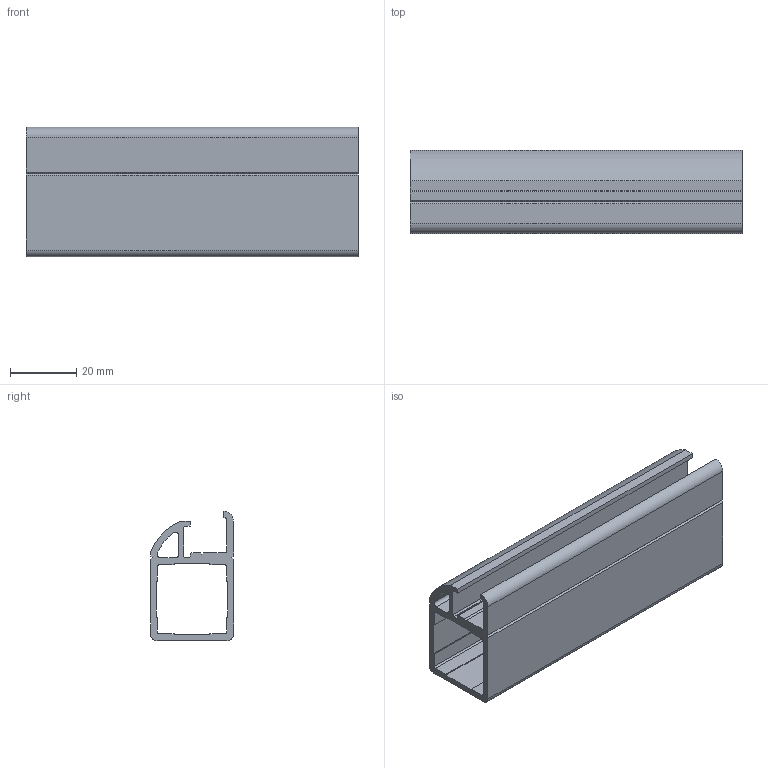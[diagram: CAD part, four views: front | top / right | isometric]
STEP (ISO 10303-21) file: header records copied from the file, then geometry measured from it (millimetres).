
FILE_DESCRIPTION (( 'STEP AP203' ), '1' );
FILE_NAME ('B25021A.STEP', '2017-03-22T11:27:41', ( 'Localadmin' ), ( 'Microsoft' ), 'SwSTEP 2.0', 'SolidWorks 2016', '' );
FILE_SCHEMA (( 'CONFIG_CONTROL_DESIGN' ));
Length unit declared in the file: millimetre
Products named in the file (1): B25021A
Bounding box: 100 x 25 x 39 mm (x, y, z)
Volume: 26804.2 mm3; surface area: 26190.9 mm2
Topology: 1 solids, 1 shells, 65 faces, 189 edges, 126 vertices
Faces by surface type: plane 45, cylinder 20
Entity records: 2228 total; most frequent: CARTESIAN_POINT 381, ORIENTED_EDGE 378, DIRECTION 361, EDGE_CURVE 189, VECTOR 149, LINE 149, VERTEX_POINT 126, AXIS2_PLACEMENT_3D 106
